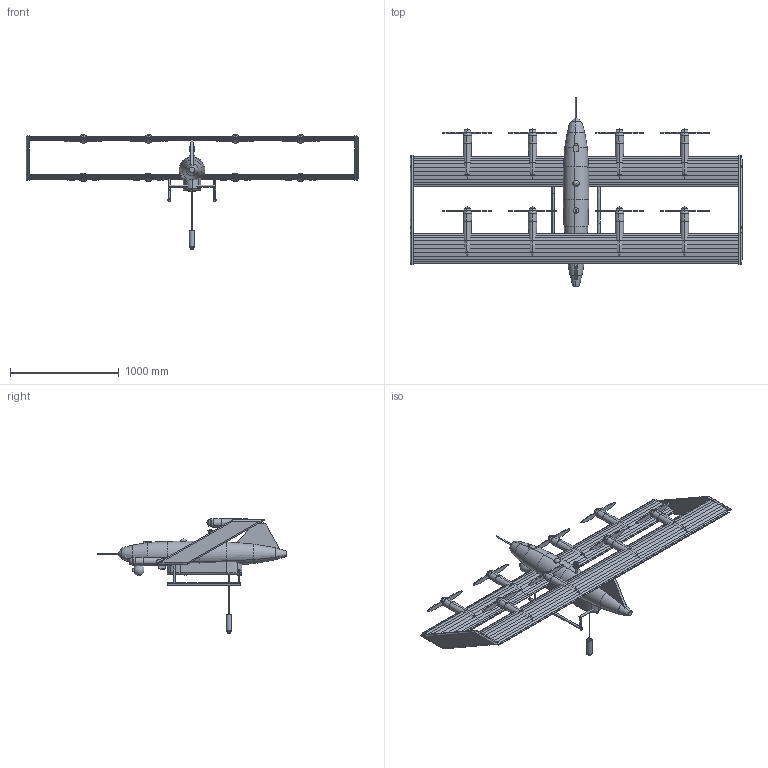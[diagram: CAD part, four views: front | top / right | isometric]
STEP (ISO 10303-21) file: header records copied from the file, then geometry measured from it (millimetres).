
FILE_DESCRIPTION(('SolidCraft model'),'2;1');
FILE_NAME('NAIADE.step','',(''),(''),'SolidCraft','SolidCraft','');
FILE_SCHEMA(('AP242_MANAGED_MODEL_BASED_3D_ENGINEERING_MIM_LF { 1 0 10303 442 1 1 4 }'));
Length unit declared in the file: millimetre
Products named in the file (1): NAIADE
Bounding box: 3056 x 1740 x 1057.97 mm (x, y, z)
Volume: 132716785.3 mm3; surface area: 7366790.6 mm2
Topology: 39 solids, 39 shells, 638 faces, 1506 edges, 958 vertices
Faces by surface type: plane 207, revolution 195, bspline 185, cylinder 43, torus 3, sphere 3, cone 2
Full cylindrical faces by diameter (mm): 4 x1, 8 x4, 12 x13, 14 x1, 20 x2, 24 x1, 26 x1, 30 x4, 36 x2, 44 x4, 48 x1, 56 x1, 60 x1, 72 x2, 96 x1
Entity records: 17491 total; most frequent: CARTESIAN_POINT 7628, ORIENTED_EDGE 2940, EDGE_CURVE 1470, VERTEX_POINT 952, B_SPLINE_CURVE_WITH_KNOTS 710, EDGE_LOOP 682, FACE_BOUND 682, ADVANCED_FACE 638
